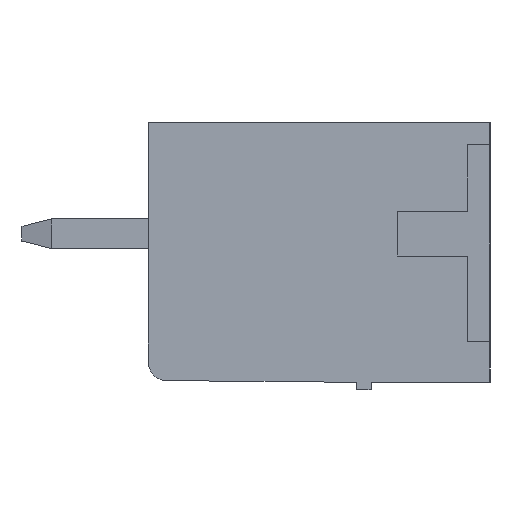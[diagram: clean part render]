
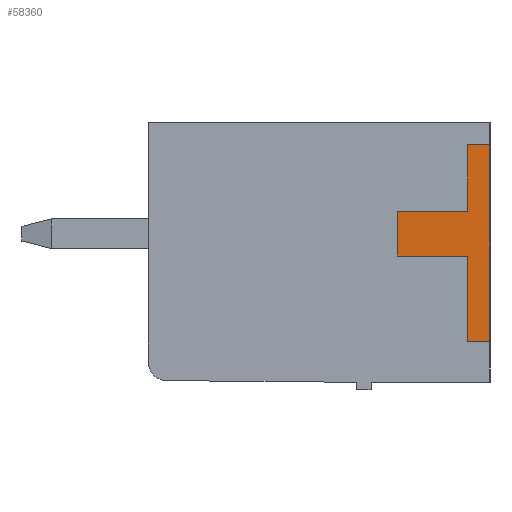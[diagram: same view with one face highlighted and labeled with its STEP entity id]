
A CAD part, left-side view. The second image highlights one B-rep face of the part: STEP entity #58360.
In plain terms, the highlighted planar face has unit normal (-1, 0, 0).
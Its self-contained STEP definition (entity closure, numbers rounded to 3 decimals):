
#100 = PLANE('',#101);
#101 = AXIS2_PLACEMENT_3D('',#102,#103,#104);
#102 = CARTESIAN_POINT('',(0.,0.,7.));
#103 = DIRECTION('',(0.,-1.,0.));
#104 = DIRECTION('',(0.,0.,-1.));
#128 = PLANE('',#129);
#129 = AXIS2_PLACEMENT_3D('',#130,#131,#132);
#130 = CARTESIAN_POINT('',(0.,0.,6.4));
#131 = DIRECTION('',(0.,0.,1.));
#132 = DIRECTION('',(0.,1.,0.));
#156 = PLANE('',#157);
#157 = AXIS2_PLACEMENT_3D('',#158,#159,#160);
#158 = CARTESIAN_POINT('',(0.,0.6,6.4));
#159 = DIRECTION('',(0.,1.,0.));
#160 = DIRECTION('',(0.,0.,-1.));
#184 = PLANE('',#185);
#185 = AXIS2_PLACEMENT_3D('',#186,#187,#188);
#186 = CARTESIAN_POINT('',(0.,0.6,4.6));
#187 = DIRECTION('',(0.,0.,1.));
#188 = DIRECTION('',(0.,1.,0.));
#212 = PLANE('',#213);
#213 = AXIS2_PLACEMENT_3D('',#214,#215,#216);
#214 = CARTESIAN_POINT('',(0.,2.5,4.6));
#215 = DIRECTION('',(0.,1.,0.));
#216 = DIRECTION('',(0.,0.,-1.));
#240 = PLANE('',#241);
#241 = AXIS2_PLACEMENT_3D('',#242,#243,#244);
#242 = CARTESIAN_POINT('',(0.,2.5,3.4));
#243 = DIRECTION('',(0.,0.,-1.));
#244 = DIRECTION('',(0.,-1.,0.));
#268 = PLANE('',#269);
#269 = AXIS2_PLACEMENT_3D('',#270,#271,#272);
#270 = CARTESIAN_POINT('',(0.,0.6,3.4));
#271 = DIRECTION('',(0.,1.,0.));
#272 = DIRECTION('',(0.,0.,-1.));
#296 = PLANE('',#297);
#297 = AXIS2_PLACEMENT_3D('',#298,#299,#300);
#298 = CARTESIAN_POINT('',(0.,0.6,1.1));
#299 = DIRECTION('',(0.,0.,-1.));
#300 = DIRECTION('',(0.,-1.,0.));
#7357 = VERTEX_POINT('',#7358);
#7358 = CARTESIAN_POINT('',(-0.2,0.,1.1));
#7379 = EDGE_CURVE('',#7357,#7380,#7382,.T.);
#7380 = VERTEX_POINT('',#7381);
#7381 = CARTESIAN_POINT('',(-0.2,0.,6.4));
#7382 = SURFACE_CURVE('',#7383,(#7387,#7394),.PCURVE_S1.);
#7383 = LINE('',#7384,#7385);
#7384 = CARTESIAN_POINT('',(-0.2,0.,1.1));
#7385 = VECTOR('',#7386,1.);
#7386 = DIRECTION('',(0.,0.,1.));
#7387 = PCURVE('',#100,#7388);
#7388 = DEFINITIONAL_REPRESENTATION('',(#7389),#7393);
#7389 = LINE('',#7390,#7391);
#7390 = CARTESIAN_POINT('',(5.9,-0.2));
#7391 = VECTOR('',#7392,1.);
#7392 = DIRECTION('',(-1.,0.));
#7393 = ( GEOMETRIC_REPRESENTATION_CONTEXT(2) 
PARAMETRIC_REPRESENTATION_CONTEXT() REPRESENTATION_CONTEXT('2D SPACE',''
  ) );
#7394 = PCURVE('',#7395,#7400);
#7395 = PLANE('',#7396);
#7396 = AXIS2_PLACEMENT_3D('',#7397,#7398,#7399);
#7397 = CARTESIAN_POINT('',(-0.2,0.,0.));
#7398 = DIRECTION('',(-1.,0.,0.));
#7399 = DIRECTION('',(0.,0.,1.));
#7400 = DEFINITIONAL_REPRESENTATION('',(#7401),#7405);
#7401 = LINE('',#7402,#7403);
#7402 = CARTESIAN_POINT('',(1.1,0.));
#7403 = VECTOR('',#7404,1.);
#7404 = DIRECTION('',(1.,0.));
#7405 = ( GEOMETRIC_REPRESENTATION_CONTEXT(2) 
PARAMETRIC_REPRESENTATION_CONTEXT() REPRESENTATION_CONTEXT('2D SPACE',''
  ) );
#58045 = VERTEX_POINT('',#58046);
#58046 = CARTESIAN_POINT('',(-0.2,0.6,1.1));
#58067 = EDGE_CURVE('',#58045,#7357,#58068,.T.);
#58068 = SURFACE_CURVE('',#58069,(#58073,#58080),.PCURVE_S1.);
#58069 = LINE('',#58070,#58071);
#58070 = CARTESIAN_POINT('',(-0.2,0.6,1.1));
#58071 = VECTOR('',#58072,1.);
#58072 = DIRECTION('',(0.,-1.,0.));
#58073 = PCURVE('',#296,#58074);
#58074 = DEFINITIONAL_REPRESENTATION('',(#58075),#58079);
#58075 = LINE('',#58076,#58077);
#58076 = CARTESIAN_POINT('',(0.,0.2));
#58077 = VECTOR('',#58078,1.);
#58078 = DIRECTION('',(1.,0.));
#58079 = ( GEOMETRIC_REPRESENTATION_CONTEXT(2) 
PARAMETRIC_REPRESENTATION_CONTEXT() REPRESENTATION_CONTEXT('2D SPACE',''
  ) );
#58080 = PCURVE('',#7395,#58081);
#58081 = DEFINITIONAL_REPRESENTATION('',(#58082),#58086);
#58082 = LINE('',#58083,#58084);
#58083 = CARTESIAN_POINT('',(1.1,0.6));
#58084 = VECTOR('',#58085,1.);
#58085 = DIRECTION('',(0.,-1.));
#58086 = ( GEOMETRIC_REPRESENTATION_CONTEXT(2) 
PARAMETRIC_REPRESENTATION_CONTEXT() REPRESENTATION_CONTEXT('2D SPACE',''
  ) );
#58094 = VERTEX_POINT('',#58095);
#58095 = CARTESIAN_POINT('',(-0.2,0.6,3.4));
#58116 = EDGE_CURVE('',#58094,#58045,#58117,.T.);
#58117 = SURFACE_CURVE('',#58118,(#58122,#58129),.PCURVE_S1.);
#58118 = LINE('',#58119,#58120);
#58119 = CARTESIAN_POINT('',(-0.2,0.6,3.4));
#58120 = VECTOR('',#58121,1.);
#58121 = DIRECTION('',(0.,0.,-1.));
#58122 = PCURVE('',#268,#58123);
#58123 = DEFINITIONAL_REPRESENTATION('',(#58124),#58128);
#58124 = LINE('',#58125,#58126);
#58125 = CARTESIAN_POINT('',(0.,0.2));
#58126 = VECTOR('',#58127,1.);
#58127 = DIRECTION('',(1.,0.));
#58128 = ( GEOMETRIC_REPRESENTATION_CONTEXT(2) 
PARAMETRIC_REPRESENTATION_CONTEXT() REPRESENTATION_CONTEXT('2D SPACE',''
  ) );
#58129 = PCURVE('',#7395,#58130);
#58130 = DEFINITIONAL_REPRESENTATION('',(#58131),#58135);
#58131 = LINE('',#58132,#58133);
#58132 = CARTESIAN_POINT('',(3.4,0.6));
#58133 = VECTOR('',#58134,1.);
#58134 = DIRECTION('',(-1.,0.));
#58135 = ( GEOMETRIC_REPRESENTATION_CONTEXT(2) 
PARAMETRIC_REPRESENTATION_CONTEXT() REPRESENTATION_CONTEXT('2D SPACE',''
  ) );
#58143 = VERTEX_POINT('',#58144);
#58144 = CARTESIAN_POINT('',(-0.2,2.5,3.4));
#58165 = EDGE_CURVE('',#58143,#58094,#58166,.T.);
#58166 = SURFACE_CURVE('',#58167,(#58171,#58178),.PCURVE_S1.);
#58167 = LINE('',#58168,#58169);
#58168 = CARTESIAN_POINT('',(-0.2,2.5,3.4));
#58169 = VECTOR('',#58170,1.);
#58170 = DIRECTION('',(0.,-1.,0.));
#58171 = PCURVE('',#240,#58172);
#58172 = DEFINITIONAL_REPRESENTATION('',(#58173),#58177);
#58173 = LINE('',#58174,#58175);
#58174 = CARTESIAN_POINT('',(0.,0.2));
#58175 = VECTOR('',#58176,1.);
#58176 = DIRECTION('',(1.,0.));
#58177 = ( GEOMETRIC_REPRESENTATION_CONTEXT(2) 
PARAMETRIC_REPRESENTATION_CONTEXT() REPRESENTATION_CONTEXT('2D SPACE',''
  ) );
#58178 = PCURVE('',#7395,#58179);
#58179 = DEFINITIONAL_REPRESENTATION('',(#58180),#58184);
#58180 = LINE('',#58181,#58182);
#58181 = CARTESIAN_POINT('',(3.4,2.5));
#58182 = VECTOR('',#58183,1.);
#58183 = DIRECTION('',(0.,-1.));
#58184 = ( GEOMETRIC_REPRESENTATION_CONTEXT(2) 
PARAMETRIC_REPRESENTATION_CONTEXT() REPRESENTATION_CONTEXT('2D SPACE',''
  ) );
#58192 = VERTEX_POINT('',#58193);
#58193 = CARTESIAN_POINT('',(-0.2,2.5,4.6));
#58214 = EDGE_CURVE('',#58192,#58143,#58215,.T.);
#58215 = SURFACE_CURVE('',#58216,(#58220,#58227),.PCURVE_S1.);
#58216 = LINE('',#58217,#58218);
#58217 = CARTESIAN_POINT('',(-0.2,2.5,4.6));
#58218 = VECTOR('',#58219,1.);
#58219 = DIRECTION('',(0.,0.,-1.));
#58220 = PCURVE('',#212,#58221);
#58221 = DEFINITIONAL_REPRESENTATION('',(#58222),#58226);
#58222 = LINE('',#58223,#58224);
#58223 = CARTESIAN_POINT('',(0.,0.2));
#58224 = VECTOR('',#58225,1.);
#58225 = DIRECTION('',(1.,0.));
#58226 = ( GEOMETRIC_REPRESENTATION_CONTEXT(2) 
PARAMETRIC_REPRESENTATION_CONTEXT() REPRESENTATION_CONTEXT('2D SPACE',''
  ) );
#58227 = PCURVE('',#7395,#58228);
#58228 = DEFINITIONAL_REPRESENTATION('',(#58229),#58233);
#58229 = LINE('',#58230,#58231);
#58230 = CARTESIAN_POINT('',(4.6,2.5));
#58231 = VECTOR('',#58232,1.);
#58232 = DIRECTION('',(-1.,0.));
#58233 = ( GEOMETRIC_REPRESENTATION_CONTEXT(2) 
PARAMETRIC_REPRESENTATION_CONTEXT() REPRESENTATION_CONTEXT('2D SPACE',''
  ) );
#58241 = VERTEX_POINT('',#58242);
#58242 = CARTESIAN_POINT('',(-0.2,0.6,4.6));
#58263 = EDGE_CURVE('',#58241,#58192,#58264,.T.);
#58264 = SURFACE_CURVE('',#58265,(#58269,#58276),.PCURVE_S1.);
#58265 = LINE('',#58266,#58267);
#58266 = CARTESIAN_POINT('',(-0.2,0.6,4.6));
#58267 = VECTOR('',#58268,1.);
#58268 = DIRECTION('',(0.,1.,0.));
#58269 = PCURVE('',#184,#58270);
#58270 = DEFINITIONAL_REPRESENTATION('',(#58271),#58275);
#58271 = LINE('',#58272,#58273);
#58272 = CARTESIAN_POINT('',(0.,0.2));
#58273 = VECTOR('',#58274,1.);
#58274 = DIRECTION('',(1.,0.));
#58275 = ( GEOMETRIC_REPRESENTATION_CONTEXT(2) 
PARAMETRIC_REPRESENTATION_CONTEXT() REPRESENTATION_CONTEXT('2D SPACE',''
  ) );
#58276 = PCURVE('',#7395,#58277);
#58277 = DEFINITIONAL_REPRESENTATION('',(#58278),#58282);
#58278 = LINE('',#58279,#58280);
#58279 = CARTESIAN_POINT('',(4.6,0.6));
#58280 = VECTOR('',#58281,1.);
#58281 = DIRECTION('',(0.,1.));
#58282 = ( GEOMETRIC_REPRESENTATION_CONTEXT(2) 
PARAMETRIC_REPRESENTATION_CONTEXT() REPRESENTATION_CONTEXT('2D SPACE',''
  ) );
#58290 = VERTEX_POINT('',#58291);
#58291 = CARTESIAN_POINT('',(-0.2,0.6,6.4));
#58312 = EDGE_CURVE('',#58290,#58241,#58313,.T.);
#58313 = SURFACE_CURVE('',#58314,(#58318,#58325),.PCURVE_S1.);
#58314 = LINE('',#58315,#58316);
#58315 = CARTESIAN_POINT('',(-0.2,0.6,6.4));
#58316 = VECTOR('',#58317,1.);
#58317 = DIRECTION('',(0.,0.,-1.));
#58318 = PCURVE('',#156,#58319);
#58319 = DEFINITIONAL_REPRESENTATION('',(#58320),#58324);
#58320 = LINE('',#58321,#58322);
#58321 = CARTESIAN_POINT('',(0.,0.2));
#58322 = VECTOR('',#58323,1.);
#58323 = DIRECTION('',(1.,0.));
#58324 = ( GEOMETRIC_REPRESENTATION_CONTEXT(2) 
PARAMETRIC_REPRESENTATION_CONTEXT() REPRESENTATION_CONTEXT('2D SPACE',''
  ) );
#58325 = PCURVE('',#7395,#58326);
#58326 = DEFINITIONAL_REPRESENTATION('',(#58327),#58331);
#58327 = LINE('',#58328,#58329);
#58328 = CARTESIAN_POINT('',(6.4,0.6));
#58329 = VECTOR('',#58330,1.);
#58330 = DIRECTION('',(-1.,0.));
#58331 = ( GEOMETRIC_REPRESENTATION_CONTEXT(2) 
PARAMETRIC_REPRESENTATION_CONTEXT() REPRESENTATION_CONTEXT('2D SPACE',''
  ) );
#58339 = EDGE_CURVE('',#7380,#58290,#58340,.T.);
#58340 = SURFACE_CURVE('',#58341,(#58345,#58352),.PCURVE_S1.);
#58341 = LINE('',#58342,#58343);
#58342 = CARTESIAN_POINT('',(-0.2,0.,6.4));
#58343 = VECTOR('',#58344,1.);
#58344 = DIRECTION('',(0.,1.,0.));
#58345 = PCURVE('',#128,#58346);
#58346 = DEFINITIONAL_REPRESENTATION('',(#58347),#58351);
#58347 = LINE('',#58348,#58349);
#58348 = CARTESIAN_POINT('',(0.,0.2));
#58349 = VECTOR('',#58350,1.);
#58350 = DIRECTION('',(1.,0.));
#58351 = ( GEOMETRIC_REPRESENTATION_CONTEXT(2) 
PARAMETRIC_REPRESENTATION_CONTEXT() REPRESENTATION_CONTEXT('2D SPACE',''
  ) );
#58352 = PCURVE('',#7395,#58353);
#58353 = DEFINITIONAL_REPRESENTATION('',(#58354),#58358);
#58354 = LINE('',#58355,#58356);
#58355 = CARTESIAN_POINT('',(6.4,0.));
#58356 = VECTOR('',#58357,1.);
#58357 = DIRECTION('',(0.,1.));
#58358 = ( GEOMETRIC_REPRESENTATION_CONTEXT(2) 
PARAMETRIC_REPRESENTATION_CONTEXT() REPRESENTATION_CONTEXT('2D SPACE',''
  ) );
#58360 = ADVANCED_FACE('',(#58361),#7395,.T.);
#58361 = FACE_BOUND('',#58362,.F.);
#58362 = EDGE_LOOP('',(#58363,#58364,#58365,#58366,#58367,#58368,#58369,
    #58370));
#58363 = ORIENTED_EDGE('',*,*,#58339,.F.);
#58364 = ORIENTED_EDGE('',*,*,#7379,.F.);
#58365 = ORIENTED_EDGE('',*,*,#58067,.F.);
#58366 = ORIENTED_EDGE('',*,*,#58116,.F.);
#58367 = ORIENTED_EDGE('',*,*,#58165,.F.);
#58368 = ORIENTED_EDGE('',*,*,#58214,.F.);
#58369 = ORIENTED_EDGE('',*,*,#58263,.F.);
#58370 = ORIENTED_EDGE('',*,*,#58312,.F.);
